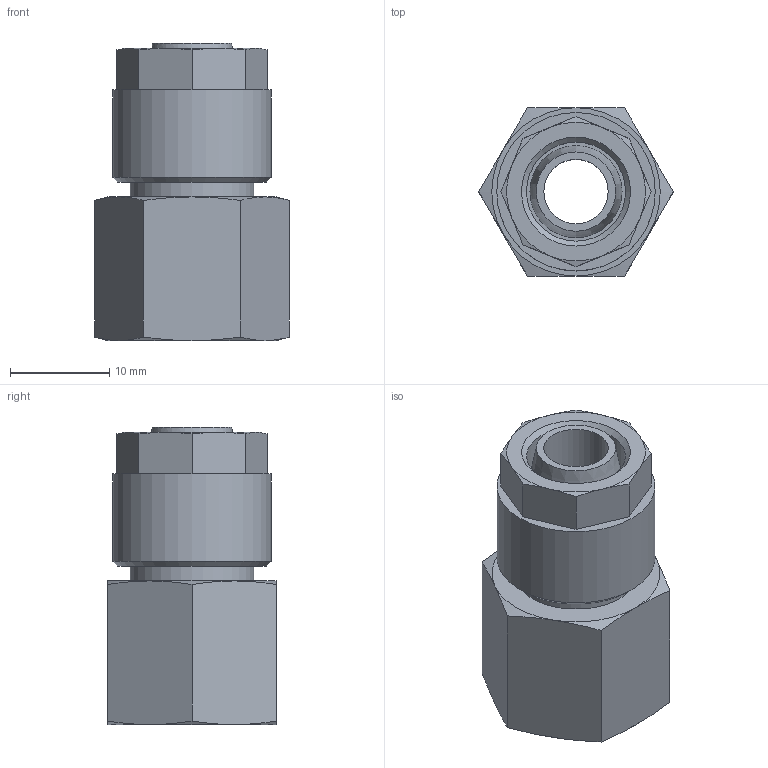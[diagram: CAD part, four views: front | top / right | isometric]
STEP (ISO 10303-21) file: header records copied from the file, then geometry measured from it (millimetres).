
FILE_DESCRIPTION(/* description */ (''),/* implementation_level */ '2;1');
FILE_NAME(/* name */ '10310_302_108_G14_26.06.17',/* time_stamp */ '2017-06-26T15:23:28+02:00',/* author */ (''),/* organization */ (''),/* preprocessor_version */ 'ST-DEVELOPER v16.5',/* originating_system */ 'HiCAD 2016 2102.2 Build 618',/* authorisation */ '');
FILE_SCHEMA (('AUTOMOTIVE_DESIGN { 1 0 10303 214 1 1 1 1 }'));
Length unit declared in the file: millimetre
Products named in the file (3): Root; 17007; R10310
Assembly tree (2 placements, depth 2):
  Root
    17007
    R10310
Bounding box: 19.63 x 17 x 30 mm (x, y, z)
Volume: 4147.5 mm3; surface area: 4012 mm2
Topology: 2 solids, 2 shells, 62 faces, 134 edges, 81 vertices
Faces by surface type: cone 29, plane 23, cylinder 9, torus 1
Full cylindrical faces by diameter (mm): 6.5 x1, 8.4 x1, 9.5 x1, 10 x1, 11.445 x1, 12.5 x1, 12.773 x1, 14 x1, 16 x1
Entity records: 2693 total; most frequent: DIRECTION 326, CARTESIAN_POINT 248, PRESENTATION_STYLE_ASSIGNMENT 218, COLOUR_RGB 217, DRAUGHTING_PRE_DEFINED_CURVE_FONT 216, CURVE_STYLE 216, OVER_RIDING_STYLED_ITEM 216, ORIENTED_EDGE 216
